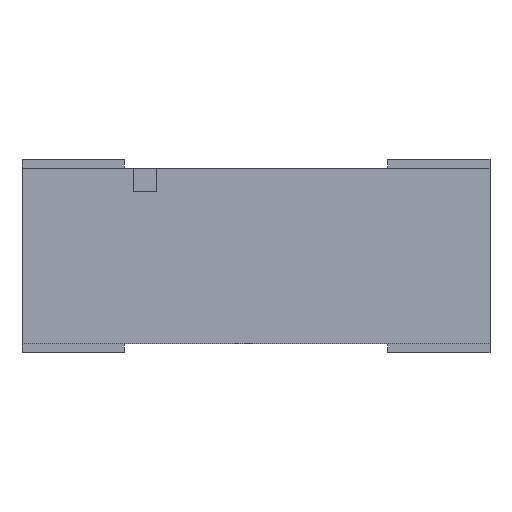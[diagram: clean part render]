
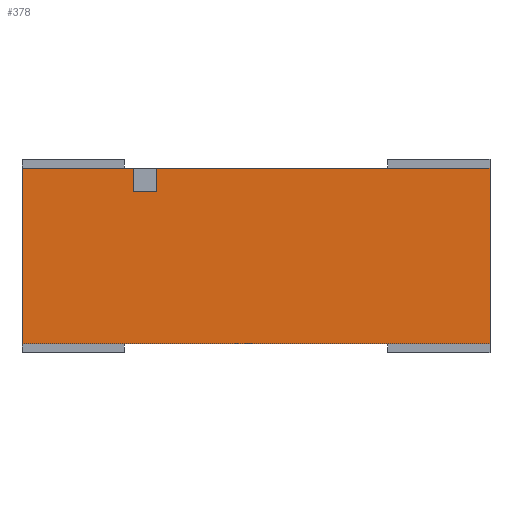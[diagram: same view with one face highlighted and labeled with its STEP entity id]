
A CAD part, front view. The second image highlights one B-rep face of the part: STEP entity #378.
In plain terms, the highlighted planar face has unit normal (0, -1, 0).
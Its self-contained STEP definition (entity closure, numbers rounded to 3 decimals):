
#127 = VERTEX_POINT('',#128);
#128 = CARTESIAN_POINT('',(-0.8,-0.45,0.03));
#134 = EDGE_CURVE('',#127,#135,#137,.T.);
#135 = VERTEX_POINT('',#136);
#136 = CARTESIAN_POINT('',(0.8,-0.45,0.03));
#137 = LINE('',#138,#139);
#138 = CARTESIAN_POINT('',(-0.8,-0.45,0.03));
#139 = VECTOR('',#140,1.);
#140 = DIRECTION('',(1.,0.,0.));
#210 = VERTEX_POINT('',#211);
#211 = CARTESIAN_POINT('',(-0.42,-0.45,0.63));
#229 = VERTEX_POINT('',#230);
#230 = CARTESIAN_POINT('',(-0.8,-0.45,0.63));
#236 = EDGE_CURVE('',#229,#210,#237,.T.);
#237 = LINE('',#238,#239);
#238 = CARTESIAN_POINT('',(-0.8,-0.45,0.63));
#239 = VECTOR('',#240,1.);
#240 = DIRECTION('',(1.,0.,0.));
#359 = EDGE_CURVE('',#135,#360,#362,.T.);
#360 = VERTEX_POINT('',#361);
#361 = CARTESIAN_POINT('',(0.8,-0.45,0.63));
#362 = LINE('',#363,#364);
#363 = CARTESIAN_POINT('',(0.8,-0.45,0.03));
#364 = VECTOR('',#365,1.);
#365 = DIRECTION('',(0.,0.,1.));
#378 = ADVANCED_FACE('',(#379),#420,.F.);
#379 = FACE_BOUND('',#380,.F.);
#380 = EDGE_LOOP('',(#381,#382,#388,#389,#397,#405,#413,#419));
#381 = ORIENTED_EDGE('',*,*,#134,.F.);
#382 = ORIENTED_EDGE('',*,*,#383,.T.);
#383 = EDGE_CURVE('',#127,#229,#384,.T.);
#384 = LINE('',#385,#386);
#385 = CARTESIAN_POINT('',(-0.8,-0.45,0.03));
#386 = VECTOR('',#387,1.);
#387 = DIRECTION('',(0.,0.,1.));
#388 = ORIENTED_EDGE('',*,*,#236,.T.);
#389 = ORIENTED_EDGE('',*,*,#390,.F.);
#390 = EDGE_CURVE('',#391,#210,#393,.T.);
#391 = VERTEX_POINT('',#392);
#392 = CARTESIAN_POINT('',(-0.42,-0.45,0.55));
#393 = LINE('',#394,#395);
#394 = CARTESIAN_POINT('',(-0.42,-0.45,0.55));
#395 = VECTOR('',#396,1.);
#396 = DIRECTION('',(0.,0.,1.));
#397 = ORIENTED_EDGE('',*,*,#398,.F.);
#398 = EDGE_CURVE('',#399,#391,#401,.T.);
#399 = VERTEX_POINT('',#400);
#400 = CARTESIAN_POINT('',(-0.34,-0.45,0.55));
#401 = LINE('',#402,#403);
#402 = CARTESIAN_POINT('',(-0.34,-0.45,0.55));
#403 = VECTOR('',#404,1.);
#404 = DIRECTION('',(-1.,0.,0.));
#405 = ORIENTED_EDGE('',*,*,#406,.F.);
#406 = EDGE_CURVE('',#407,#399,#409,.T.);
#407 = VERTEX_POINT('',#408);
#408 = CARTESIAN_POINT('',(-0.34,-0.45,0.63));
#409 = LINE('',#410,#411);
#410 = CARTESIAN_POINT('',(-0.34,-0.45,0.63));
#411 = VECTOR('',#412,1.);
#412 = DIRECTION('',(0.,0.,-1.));
#413 = ORIENTED_EDGE('',*,*,#414,.T.);
#414 = EDGE_CURVE('',#407,#360,#415,.T.);
#415 = LINE('',#416,#417);
#416 = CARTESIAN_POINT('',(-0.8,-0.45,0.63));
#417 = VECTOR('',#418,1.);
#418 = DIRECTION('',(1.,0.,0.));
#419 = ORIENTED_EDGE('',*,*,#359,.F.);
#420 = PLANE('',#421);
#421 = AXIS2_PLACEMENT_3D('',#422,#423,#424);
#422 = CARTESIAN_POINT('',(-0.8,-0.45,0.03));
#423 = DIRECTION('',(0.,1.,0.));
#424 = DIRECTION('',(1.,0.,0.));
